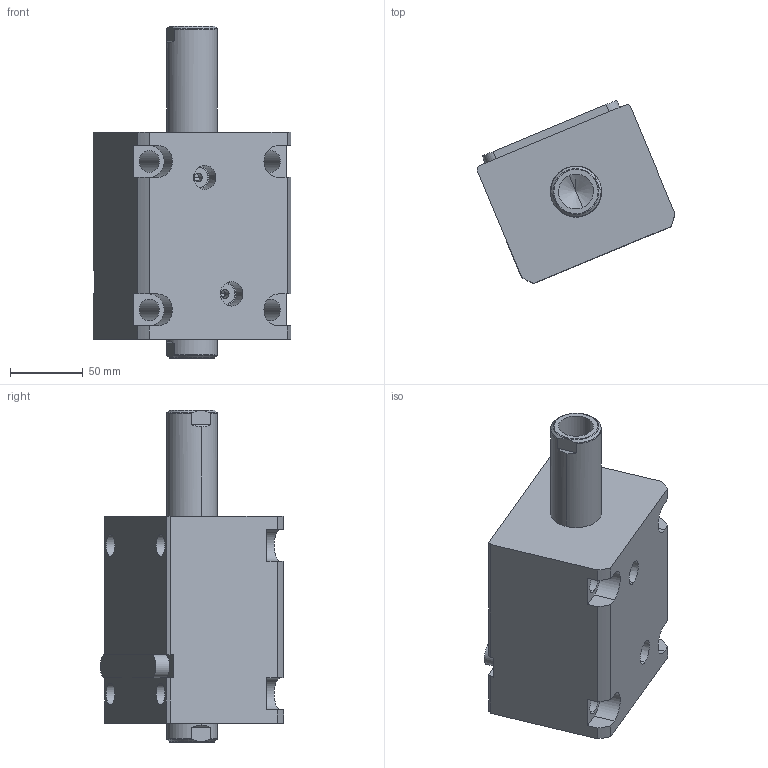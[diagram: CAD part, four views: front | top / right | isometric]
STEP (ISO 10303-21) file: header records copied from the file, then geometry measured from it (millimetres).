
FILE_DESCRIPTION (( 'STEP AP214' ), '1' );
FILE_NAME ('chtb-lw63x60n_asm.STEP', '2018-05-03T07:44:21', ( 'Windows' ), ( 'Microsoft' ), 'SwSTEP 2.0', 'SolidWorks 2015', '' );
FILE_SCHEMA (( 'AUTOMOTIVE_DESIGN' ));
Length unit declared in the file: millimetre
Products named in the file (5): chtb-lw63x60n_asm; CHTB-LA63PJ; CHTB-SW63X60NHSG; CHTB-LW63X60NBT; CHTB-63QG
Assembly tree (4 placements, depth 2):
  chtb-lw63x60n_asm
    CHTB-63QG
    CHTB-LW63X60NBT
    CHTB-SW63X60NHSG
    CHTB-LA63PJ
Bounding box: 135.77 x 126.06 x 228 mm (x, y, z)
Volume: 1292445.6 mm3; surface area: 179523.1 mm2
Topology: 4 solids, 4 shells, 194 faces, 563 edges, 381 vertices
Faces by surface type: cylinder 104, plane 50, cone 16, bspline 12, torus 12
Entity records: 18887 total; most frequent: CARTESIAN_POINT 13868, ORIENTED_EDGE 1110, DIRECTION 876, EDGE_CURVE 555, VERTEX_POINT 381, AXIS2_PLACEMENT_3D 336, EDGE_LOOP 222, VECTOR 204
